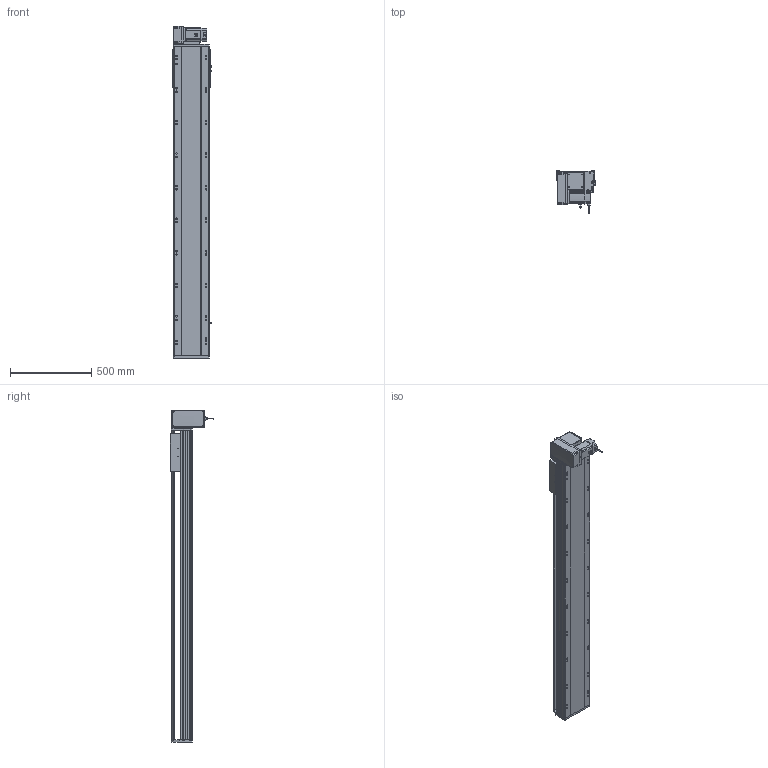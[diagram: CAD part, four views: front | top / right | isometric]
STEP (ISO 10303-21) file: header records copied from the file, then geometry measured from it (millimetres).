
FILE_DESCRIPTION (( 'STEP AP214' ), '1' );
FILE_NAME ('RTB22S-XX-1550-LM-M75-C4.STEP', '2025-12-12T03:52:33', ( '' ), ( '' ), 'SwSTEP 2.0', 'SolidWorks 2018', '' );
FILE_SCHEMA (( 'AUTOMOTIVE_DESIGN' ));
Length unit declared in the file: millimetre
Products named in the file (14): RTB22S-GY-007奻裔^RTB22S-XX-XX-LM-M75-C4; OMRON EE-SX672 传感器^RTB22S-XX-XX-LM-M75-C4; RTH22-GY-013外置感应片^RTB22S-XX-XX-LM-M75-C4; RTB22S-XX-1550-LM-M75-C4; RTB22S-L-004賑釱^RTB22S-XX-XX-LM-M75-C4; RMP22S-LM-々湍釱蚾饜^RTB22S-XX-XX-LM-M75-C4; RTB22S-GY-008-M75--萇儂啣^RMP22S-LM-々湍釱蚾饜_RTB22S-XX-XX-LM-M75-C4; RTB22S-GY-005P^RMP22S-LM-々湍釱蚾饜_RTB22S-XX-XX-LM-M75-C4; RTB22S-GY-017P^RMP22S-LM-々湍釱蚾饜_RTB22S-XX-XX-LM-M75-C4; RTB22S-GY-001耜裔^RTB22S-XX-XX-LM-M75-C4; RTB22S-GY-018P^RMP22S-LM-々湍釱蚾饜_RTB22S-XX-XX-LM-M75-C4; RTB22S-GY-014--々湍釱^RMP22S-LM-々湍釱蚾饜_RTB22S-XX-XX-LM-M75-C4; 750W萇儂^RTB22S-XX-XX-LM-M75-C4; RTB22S-L-011菁釱^RTB22S-XX-XX-LM-M75-C4
Assembly tree (16 placements, depth 3):
  RTB22S-XX-1550-LM-M75-C4
    RTB22S-L-011菁釱^RTB22S-XX-XX-LM-M75-C4
    RTB22S-GY-001耜裔^RTB22S-XX-XX-LM-M75-C4
    750W萇儂^RTB22S-XX-XX-LM-M75-C4
    RTB22S-GY-007奻裔^RTB22S-XX-XX-LM-M75-C4
    RTB22S-L-004賑釱^RTB22S-XX-XX-LM-M75-C4
    RTH22-GY-013外置感应片^RTB22S-XX-XX-LM-M75-C4
    OMRON EE-SX672 传感器^RTB22S-XX-XX-LM-M75-C4  x3
    RMP22S-LM-々湍釱蚾饜^RTB22S-XX-XX-LM-M75-C4
      RTB22S-GY-014--々湍釱^RMP22S-LM-々湍釱蚾饜_RTB22S-XX-XX-LM-M75-C4
      RTB22S-GY-017P^RMP22S-LM-々湍釱蚾饜_RTB22S-XX-XX-LM-M75-C4  x2
      RTB22S-GY-005P^RMP22S-LM-々湍釱蚾饜_RTB22S-XX-XX-LM-M75-C4
      RTB22S-GY-008-M75--萇儂啣^RMP22S-LM-々湍釱蚾饜_RTB22S-XX-XX-LM-M75-C4
      RTB22S-GY-018P^RMP22S-LM-々湍釱蚾饜_RTB22S-XX-XX-LM-M75-C4
Bounding box: 238.5 x 264.7 x 2037.5 mm (x, y, z)
Volume: 27697924.9 mm3; surface area: 2856686.2 mm2
Topology: 15 solids, 15 shells, 2019 faces, 5486 edges, 3512 vertices
Faces by surface type: plane 919, cylinder 646, bspline 296, cone 146, sphere 8, torus 4
Entity records: 54084 total; most frequent: CARTESIAN_POINT 15468, ORIENTED_EDGE 7744, DIRECTION 7486, EDGE_CURVE 3872, AXIS2_PLACEMENT_3D 2654, VERTEX_POINT 2516, LINE 2178, VECTOR 2178
